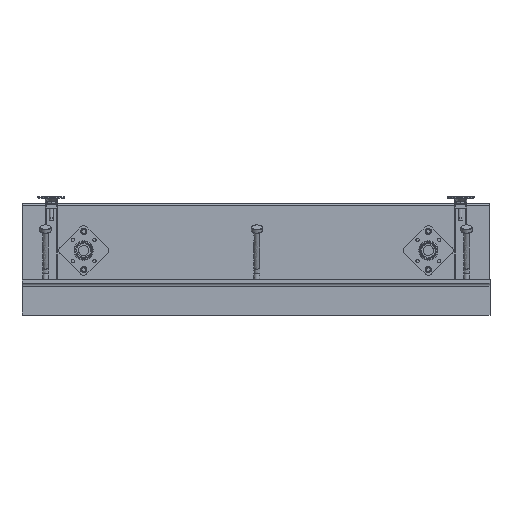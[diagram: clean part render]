
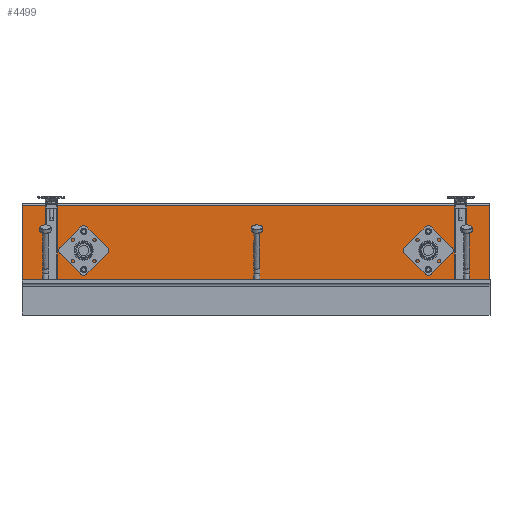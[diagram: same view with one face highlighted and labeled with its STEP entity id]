
A CAD part, left-side view. The second image highlights one B-rep face of the part: STEP entity #4499.
In plain terms, the highlighted planar face has unit normal (-1, 0, 0) as drawn and (0, 0, -1) by its records, which use the part's own axes.
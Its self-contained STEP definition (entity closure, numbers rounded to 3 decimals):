
#250=FACE_BOUND('',#912,.T.);
#251=FACE_BOUND('',#913,.T.);
#252=FACE_BOUND('',#914,.T.);
#253=FACE_BOUND('',#915,.T.);
#254=FACE_BOUND('',#916,.T.);
#255=FACE_BOUND('',#917,.T.);
#369=PLANE('',#5001);
#595=FACE_OUTER_BOUND('',#911,.T.);
#911=EDGE_LOOP('',(#3538,#3539,#3540,#3541));
#912=EDGE_LOOP('',(#3542));
#913=EDGE_LOOP('',(#3543));
#914=EDGE_LOOP('',(#3544));
#915=EDGE_LOOP('',(#3545));
#916=EDGE_LOOP('',(#3546));
#917=EDGE_LOOP('',(#3547));
#1265=LINE('',#7309,#1582);
#1280=LINE('',#7345,#1597);
#1283=LINE('',#7351,#1600);
#1284=LINE('',#7352,#1601);
#1582=VECTOR('',#5937,10.);
#1597=VECTOR('',#5976,10.);
#1600=VECTOR('',#5981,10.);
#1601=VECTOR('',#5982,10.);
#1898=CIRCLE('',#4970,1.5);
#1900=CIRCLE('',#4973,1.5);
#1902=CIRCLE('',#4976,1.5);
#1904=CIRCLE('',#4979,1.5);
#1906=CIRCLE('',#4982,11.);
#1908=CIRCLE('',#4985,11.);
#2157=VERTEX_POINT('',#7273);
#2159=VERTEX_POINT('',#7278);
#2161=VERTEX_POINT('',#7283);
#2163=VERTEX_POINT('',#7288);
#2165=VERTEX_POINT('',#7293);
#2167=VERTEX_POINT('',#7298);
#2171=VERTEX_POINT('',#7306);
#2172=VERTEX_POINT('',#7308);
#2181=VERTEX_POINT('',#7344);
#2183=VERTEX_POINT('',#7350);
#2652=EDGE_CURVE('',#2157,#2157,#1898,.T.);
#2654=EDGE_CURVE('',#2159,#2159,#1900,.T.);
#2656=EDGE_CURVE('',#2161,#2161,#1902,.T.);
#2658=EDGE_CURVE('',#2163,#2163,#1904,.T.);
#2660=EDGE_CURVE('',#2165,#2165,#1906,.T.);
#2662=EDGE_CURVE('',#2167,#2167,#1908,.T.);
#2666=EDGE_CURVE('',#2172,#2171,#1265,.T.);
#2684=EDGE_CURVE('',#2181,#2172,#1280,.T.);
#2687=EDGE_CURVE('',#2171,#2183,#1283,.T.);
#2688=EDGE_CURVE('',#2183,#2181,#1284,.T.);
#3538=ORIENTED_EDGE('',*,*,#2666,.T.);
#3539=ORIENTED_EDGE('',*,*,#2687,.T.);
#3540=ORIENTED_EDGE('',*,*,#2688,.T.);
#3541=ORIENTED_EDGE('',*,*,#2684,.T.);
#3542=ORIENTED_EDGE('',*,*,#2652,.T.);
#3543=ORIENTED_EDGE('',*,*,#2654,.T.);
#3544=ORIENTED_EDGE('',*,*,#2656,.T.);
#3545=ORIENTED_EDGE('',*,*,#2658,.T.);
#3546=ORIENTED_EDGE('',*,*,#2660,.T.);
#3547=ORIENTED_EDGE('',*,*,#2662,.T.);
#4499=ADVANCED_FACE('',(#595,#250,#251,#252,#253,#254,#255),#369,.F.);
#4970=AXIS2_PLACEMENT_3D('',#7274,#5898,#5899);
#4973=AXIS2_PLACEMENT_3D('',#7279,#5904,#5905);
#4976=AXIS2_PLACEMENT_3D('',#7284,#5910,#5911);
#4979=AXIS2_PLACEMENT_3D('',#7289,#5916,#5917);
#4982=AXIS2_PLACEMENT_3D('',#7294,#5922,#5923);
#4985=AXIS2_PLACEMENT_3D('',#7299,#5928,#5929);
#5001=AXIS2_PLACEMENT_3D('',#7349,#5979,#5980);
#5898=DIRECTION('center_axis',(0.,0.,1.));
#5899=DIRECTION('ref_axis',(-1.,0.,0.));
#5904=DIRECTION('center_axis',(0.,0.,1.));
#5905=DIRECTION('ref_axis',(-1.,0.,0.));
#5910=DIRECTION('center_axis',(0.,0.,1.));
#5911=DIRECTION('ref_axis',(-1.,0.,0.));
#5916=DIRECTION('center_axis',(0.,0.,1.));
#5917=DIRECTION('ref_axis',(-1.,0.,0.));
#5922=DIRECTION('center_axis',(0.,0.,1.));
#5923=DIRECTION('ref_axis',(-1.,0.,0.));
#5928=DIRECTION('center_axis',(0.,0.,1.));
#5929=DIRECTION('ref_axis',(-1.,0.,0.));
#5937=DIRECTION('',(1.,0.,0.));
#5976=DIRECTION('',(0.,1.,0.));
#5979=DIRECTION('center_axis',(0.,0.,1.));
#5980=DIRECTION('ref_axis',(1.,0.,0.));
#5981=DIRECTION('',(0.,-1.,0.));
#5982=DIRECTION('',(-1.,0.,0.));
#7273=CARTESIAN_POINT('',(106.5,-47.5,0.));
#7274=CARTESIAN_POINT('Origin',(105.,-47.5,0.));
#7278=CARTESIAN_POINT('',(693.5,-112.5,0.));
#7279=CARTESIAN_POINT('Origin',(692.,-112.5,0.));
#7283=CARTESIAN_POINT('',(693.5,-47.5,0.));
#7284=CARTESIAN_POINT('Origin',(692.,-47.5,0.));
#7288=CARTESIAN_POINT('',(106.5,-112.5,0.));
#7289=CARTESIAN_POINT('Origin',(105.,-112.5,0.));
#7293=CARTESIAN_POINT('',(703.,-80.,0.));
#7294=CARTESIAN_POINT('Origin',(692.,-80.,0.));
#7298=CARTESIAN_POINT('',(116.,-80.,0.));
#7299=CARTESIAN_POINT('Origin',(105.,-80.,0.));
#7306=CARTESIAN_POINT('',(797.,-3.,0.));
#7308=CARTESIAN_POINT('',(0.,-3.,0.));
#7309=CARTESIAN_POINT('',(199.25,-3.,0.));
#7344=CARTESIAN_POINT('',(0.,-130.,0.));
#7345=CARTESIAN_POINT('',(0.,-130.,0.));
#7349=CARTESIAN_POINT('Origin',(398.5,-65.,0.));
#7350=CARTESIAN_POINT('',(797.,-130.,0.));
#7351=CARTESIAN_POINT('',(797.,0.,0.));
#7352=CARTESIAN_POINT('',(797.,-130.,0.));
